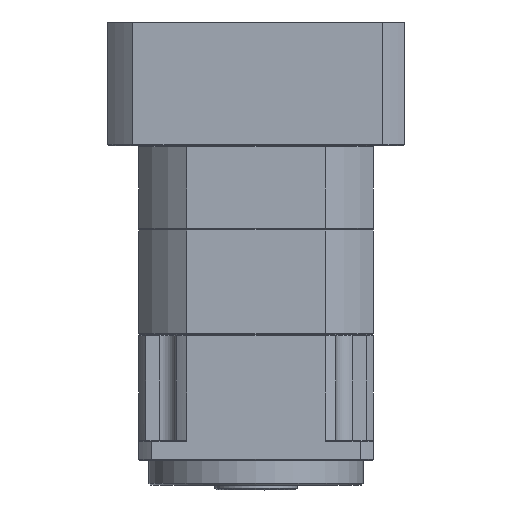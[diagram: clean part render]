
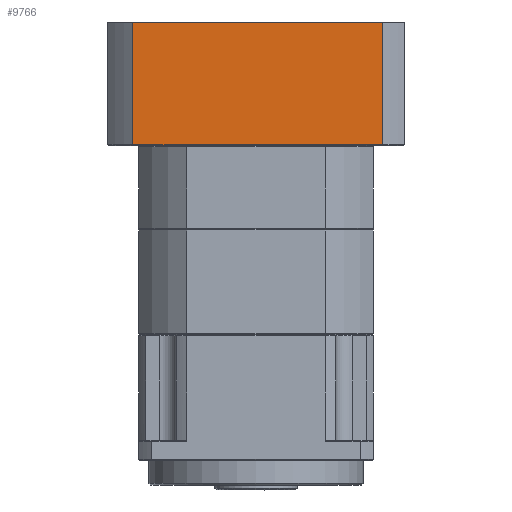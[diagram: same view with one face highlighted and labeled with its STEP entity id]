
A CAD part, front view. The second image highlights one B-rep face of the part: STEP entity #9766.
In plain terms, the highlighted planar face has unit normal (0, 1, 0).
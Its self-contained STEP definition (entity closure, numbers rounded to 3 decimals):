
#2917 = LINE ( 'NONE', #40269, #21522 ) ;
#3844 = DIRECTION ( 'NONE',  ( -1., 0., 0. ) ) ;
#9766 = ADVANCED_FACE ( 'NONE', ( #19186 ), #61148, .T. ) ;
#19186 = FACE_OUTER_BOUND ( 'NONE', #30070, .T. ) ;
#21522 = VECTOR ( 'NONE', #42030, 1000. ) ;
#23265 = EDGE_CURVE ( 'NONE', #54203, #23399, #78350, .T. ) ;
#23399 = VERTEX_POINT ( 'NONE', #63914 ) ;
#24972 = EDGE_CURVE ( 'NONE', #23399, #80203, #2917, .T. ) ;
#26887 = CARTESIAN_POINT ( 'NONE',  ( -74.54, -90., 191. ) ) ;
#29889 = VECTOR ( 'NONE', #61852, 1000. ) ;
#30070 = EDGE_LOOP ( 'NONE', ( #61139, #48857, #57654, #40403 ) ) ;
#30335 = EDGE_CURVE ( 'NONE', #69936, #80203, #55006, .T. ) ;
#33819 = DIRECTION ( 'NONE',  ( 0., 0., 1. ) ) ;
#40269 = CARTESIAN_POINT ( 'NONE',  ( -74.54, -90., 228. ) ) ;
#40403 = ORIENTED_EDGE ( 'NONE', *, *, #23265, .T. ) ;
#42030 = DIRECTION ( 'NONE',  ( 0., 0., 1. ) ) ;
#43225 = EDGE_CURVE ( 'NONE', #69936, #54203, #82991, .T. ) ;
#48857 = ORIENTED_EDGE ( 'NONE', *, *, #30335, .F. ) ;
#51620 = CARTESIAN_POINT ( 'NONE',  ( -74.54, -90., 265. ) ) ;
#54203 = VERTEX_POINT ( 'NONE', #77237 ) ;
#55006 = LINE ( 'NONE', #65914, #89619 ) ;
#57654 = ORIENTED_EDGE ( 'NONE', *, *, #43225, .T. ) ;
#58960 = DIRECTION ( 'NONE',  ( -1., 0., 0. ) ) ;
#59910 = VECTOR ( 'NONE', #3844, 1000. ) ;
#61139 = ORIENTED_EDGE ( 'NONE', *, *, #24972, .T. ) ;
#61148 = PLANE ( 'NONE',  #68960 ) ;
#61852 = DIRECTION ( 'NONE',  ( 0., 0., -1. ) ) ;
#63914 = CARTESIAN_POINT ( 'NONE',  ( -74.54, -90., 191. ) ) ;
#65914 = CARTESIAN_POINT ( 'NONE',  ( 1., -90., 265. ) ) ;
#68960 = AXIS2_PLACEMENT_3D ( 'NONE', #26887, #75375, #33819 ) ;
#69936 = VERTEX_POINT ( 'NONE', #71504 ) ;
#71504 = CARTESIAN_POINT ( 'NONE',  ( 76.54, -90., 265. ) ) ;
#75375 = DIRECTION ( 'NONE',  ( 0., 1., 0. ) ) ;
#77237 = CARTESIAN_POINT ( 'NONE',  ( 76.54, -90., 191. ) ) ;
#78350 = LINE ( 'NONE', #86886, #59910 ) ;
#80203 = VERTEX_POINT ( 'NONE', #51620 ) ;
#82410 = CARTESIAN_POINT ( 'NONE',  ( 76.54, -90., 228. ) ) ;
#82991 = LINE ( 'NONE', #82410, #29889 ) ;
#86886 = CARTESIAN_POINT ( 'NONE',  ( 1., -90., 191. ) ) ;
#89619 = VECTOR ( 'NONE', #58960, 1000. ) ;
